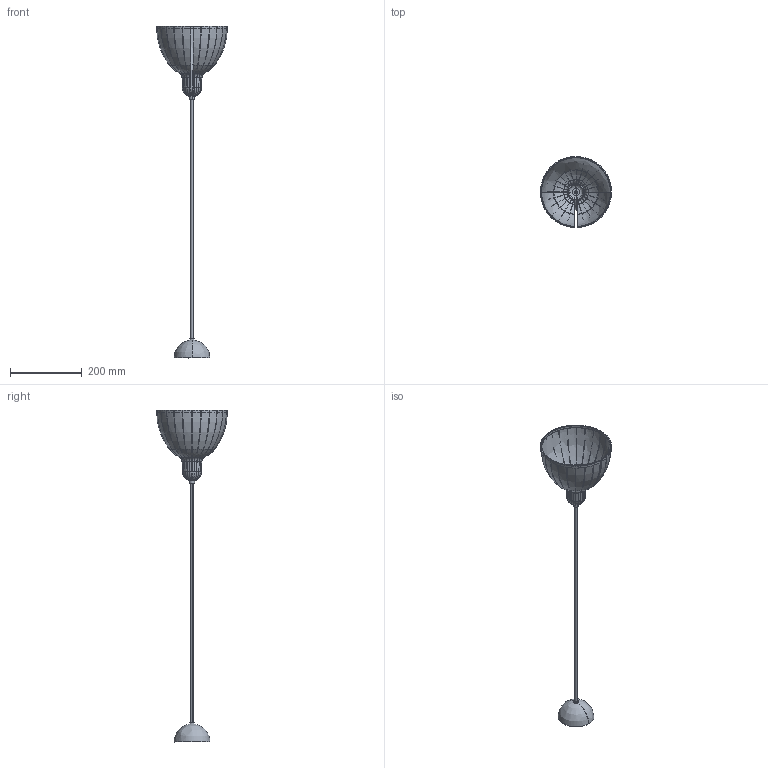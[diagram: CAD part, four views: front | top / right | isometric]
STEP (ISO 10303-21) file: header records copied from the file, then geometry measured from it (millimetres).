
FILE_DESCRIPTION(/* description */ (''),/* implementation_level */ '2;1');
FILE_NAME(/* name */ '64255-127.step',/* time_stamp */ '2024-04-08T12:06:37+02:00',/* author */ ('RenataManzini'),/* organization */ (''),/* preprocessor_version */ 'ST-DEVELOPER v20',/* originating_system */ 'AutoCAD Mechanical',/* authorisation */ '');
FILE_SCHEMA (('AUTOMOTIVE_DESIGN { 1 0 10303 214 3 1 1 }'));
Products named in the file (3): Product; 64255_64256_64257_64258_VENICE_CSUPPORT - ceiling support-592034-Expo
rt; 64258_VENICE_LAMP - Lamp Holder-651188-Export
Assembly tree (2 placements, depth 2):
  Product
    64255_64256_64257_64258_VENICE_CSUPPORT - ceiling support-592034-Expo
rt
    64258_VENICE_LAMP - Lamp Holder-651188-Export
Bounding box: 197.96 x 197.84 x 925.79 mm (x, y, z)
Volume: 162033.1 mm3; surface area: 453982.5 mm2
Topology: 8 solids, 53 shells, 904 faces, 2912 edges, 2044 vertices
Faces by surface type: bspline 308, cone 205, plane 195, torus 152, cylinder 44
Entity records: 42334 total; most frequent: CARTESIAN_POINT 18396, ORIENTED_EDGE 5164, DIRECTION 4646, EDGE_CURVE 2912, VERTEX_POINT 2044, AXIS2_PLACEMENT_3D 1887, CIRCLE 1286, EDGE_LOOP 910
